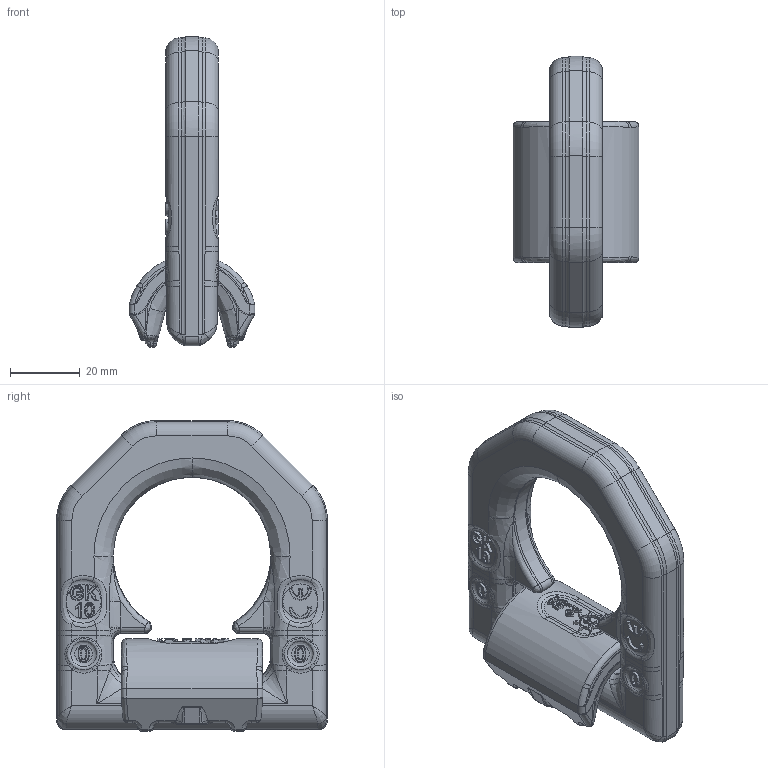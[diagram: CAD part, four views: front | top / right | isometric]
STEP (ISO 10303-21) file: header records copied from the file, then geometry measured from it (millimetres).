
FILE_DESCRIPTION((''),'2;1');
FILE_NAME('SFA-2613-0000_SFA-2614-0000_SFA-2639-0000_90°','2013-12-04T16:38:53',('Luca'),(''),'CADlook_v9.0','Cimatron E 8.0','');
FILE_SCHEMA(('AUTOMOTIVE_DESIGN { 1 2 10303 214 0 1 1 1 }'));
Length unit declared in the file: millimetre
Bounding box: 36 x 77.5 x 88.94 mm (x, y, z)
Volume: 72222.6 mm3; surface area: 19289.7 mm2
Topology: 2 solids, 2 shells, 1143 faces, 2923 edges, 1783 vertices
Faces by surface type: bspline 570, plane 284, cylinder 189, torus 57, cone 27, sphere 16
Full cylindrical faces by diameter (mm): 5.89 x1
Entity records: 88570 total; most frequent: CARTESIAN_POINT 55802, ORIENTED_EDGE 5774, DIRECTION 3660, EDGE_CURVE 2887, VERTEX_POINT 1782, AXIS2_PLACEMENT_3D 1391, B_SPLINE_CURVE_WITH_KNOTS 1191, EDGE_LOOP 1177
